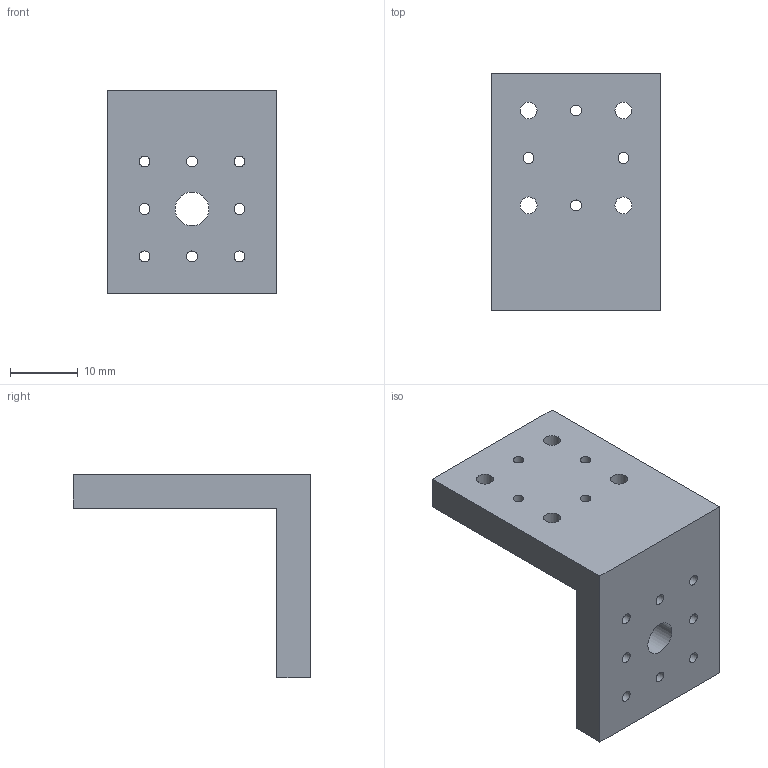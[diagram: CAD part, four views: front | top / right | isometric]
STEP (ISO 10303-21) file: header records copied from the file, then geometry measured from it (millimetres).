
FILE_DESCRIPTION( ( 'STEP AP203' ), '1' );
FILE_NAME( 'C:/3D-Trans/3D_A48-1+071218.stp', '2007-12-18T05:03:24', ( ' ' ), ( ' ' ), 'XStep 1.0', ' ', ' ' );
FILE_SCHEMA( ( 'CONFIG_CONTROL_DESIGN' ) );
Length unit declared in the file: millimetre
Products named in the file (1): 1
Bounding box: 25 x 35 x 30 mm (x, y, z)
Volume: 7183 mm3; surface area: 4260.4 mm2
Topology: 1 solids, 1 shells, 25 faces, 69 edges, 46 vertices
Faces by surface type: cylinder 17, plane 8
Full cylindrical faces by diameter (mm): 1.6 x12, 2.5 x4, 5 x1
Entity records: 844 total; most frequent: DIRECTION 138, CARTESIAN_POINT 124, ORIENTED_EDGE 104, EDGE_LOOP 76, AXIS2_PLACEMENT_3D 60, EDGE_CURVE 52, VERTEX_POINT 46, FACE_OUTER_BOUND 42
